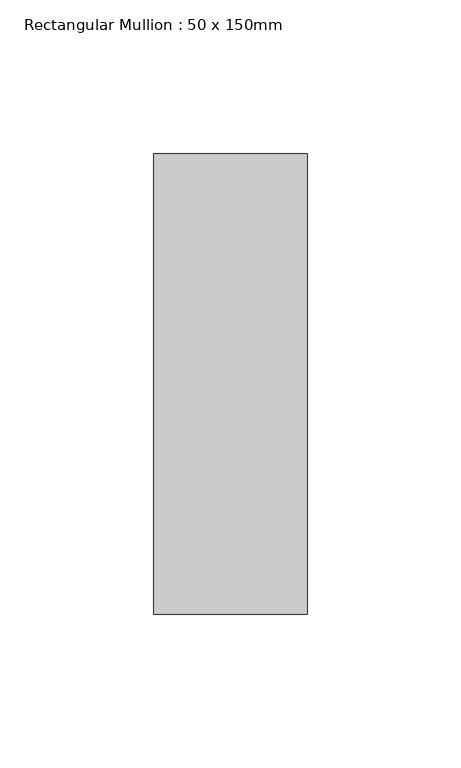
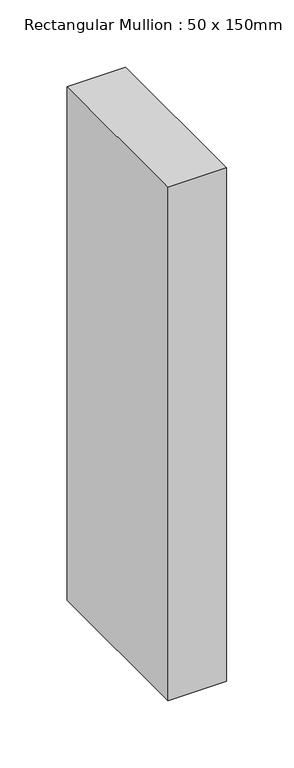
"""IFC4 building model written with IfcOpenShell, lengths in millimetres: member geometry, Rectangular Mullion : 50 x 150mm."""

from ifc_helpers import new_model, si_unit, frame, origin, place, context, project, spatial, polyline, outline, extrude, source, transform, mapped, element, save


def rectangular_mullion_50_x_150mm_370aa0bc(model_context):
    return source(origin(), model_context, "Body", "SweptSolid", [
        extrude(outline(polyline([(0.0, 75.0), (0.0, -75.0), (-50.0, -75.0), (-50.0, 75.0), (0.0, 75.0)])), frame((0.0, 0.0, -465.0014242), z_axis=(0.0, 0.0, 1.0), x_axis=(1.0, 0.0, 0.0)), (0.0, 0.0, 1.0), 465.0014242),
    ])


if __name__ == "__main__":
    model = new_model("IFC4")
    model_context = context("Model", 3, world=origin())
    ifc_project = project(units=[si_unit("LENGTHUNIT", "METRE", prefix="MILLI")], contexts=[model_context])
    site = spatial("IfcSite", under=ifc_project)
    building = spatial("IfcBuilding", under=site)
    placement = place(None, origin())
    rectangular_mullion_50_x_150mm_shape = rectangular_mullion_50_x_150mm_370aa0bc(model_context)
    element("IfcMember", 1, ObjectType="Rectangular Mullion : 50 x 150mm", at=placement, inside=building, context=model_context, shape_type="MappedRepresentation", body=[
        mapped(rectangular_mullion_50_x_150mm_shape, transform((0.0, 0.0, 0.0), x_axis=(1.0, 0.0, 0.0), y_axis=(0.0, 1.0, 0.0), z_axis=(0.0, 0.0, 1.0))),
    ])
    save(model, "model.ifc")
